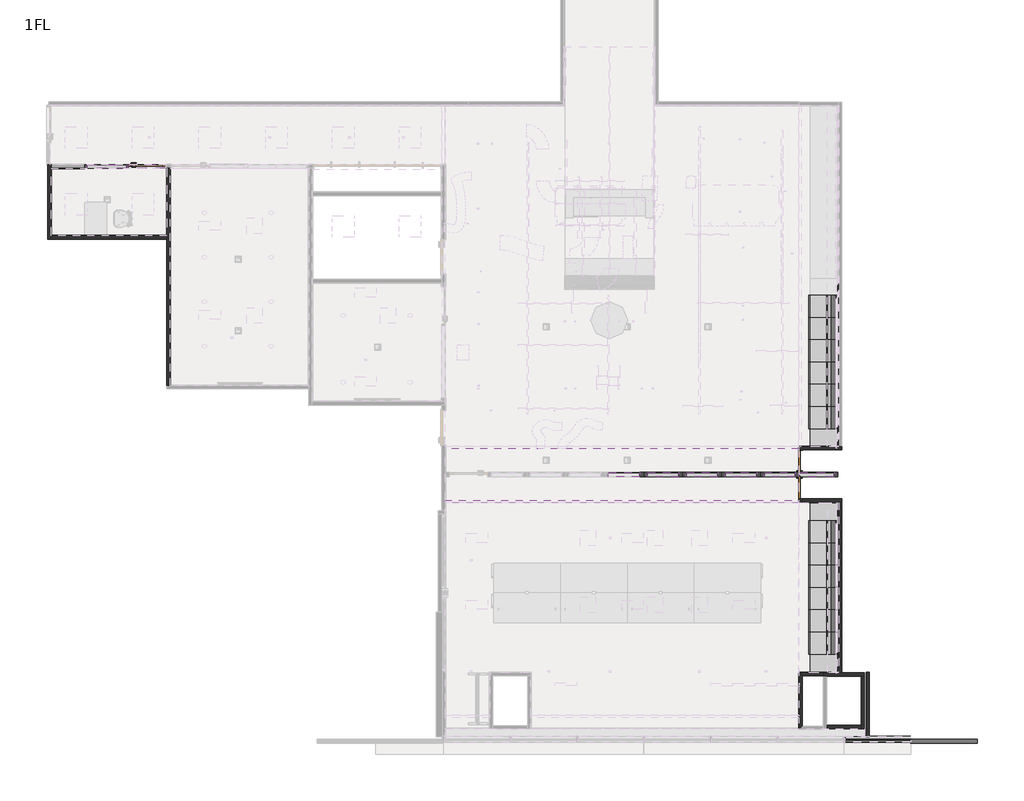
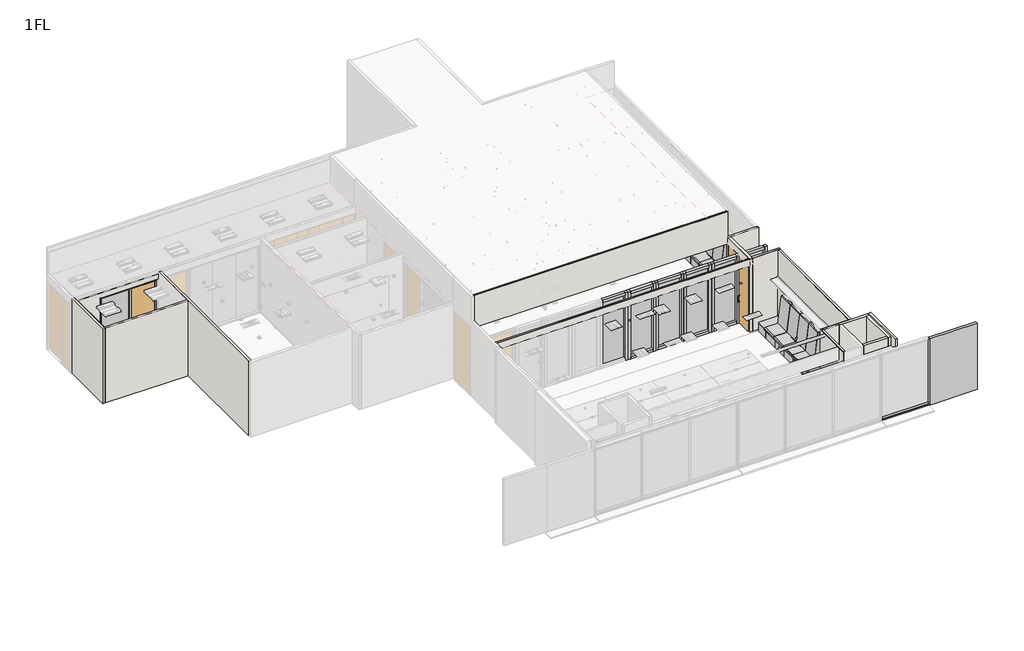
# One storey, part 2 of 13: 27 members, 26 walls, 23 plates, 2 doors.
"""IFC4 building model written with IfcOpenShell, lengths in millimetres."""

from ifc_helpers import new_model, si_unit, frame, origin, place, context, project, spatial, polyline, outline, extrude, faceted_brep, transform, mapped, element, save
from components import steel_single_door_gpd_1_74bd187e, wd_4_1305x2700_2a4c9971, down_4757ce99, frame_100x1003_5722a33e, frame_100x1003_1326d172, frame_100x1003_340101ea, frame_100x1003_4de115ea, frame_100x1003_02b6ec4a, frame_50x100_53001aca, frame_50x100_849c561a, frame_50x100_6d6498be, frame_50x100_8322f18e, plate_999be328, interior_panel_glass_f77e83d4, interior_panel_glass_2ea66a61, interior_panel_glass_e7516142, interior_panel_glass_c4700e78, millwork_bench_millwork_bench_4b785c8e, millwork_bench_millwork_bench_7542b6f9, millwork_bench_millwork_bench_4cd5eb03, millwork_bench2_millwork_bench2_839899ad, millwork_bench2_millwork_bench2_22598439

model = new_model("IFC4")

# Units and contexts
model_context = context("Model", 3, world=origin())
ifc_project = project(units=[si_unit("LENGTHUNIT", "METRE", prefix="MILLI")], contexts=[model_context])

# Site, building, storey
site = spatial("IfcSite", under=ifc_project)
building = spatial("IfcBuilding", under=site)
storey = spatial("IfcBuildingStorey", under=building, Name="1FL", Elevation=500.0)

# Doors
placement = place(None, origin())
steel_single_door_gpd_1_shape = steel_single_door_gpd_1_74bd187e(model_context)
element("IfcDoor", 1, ObjectType="Steel-Single-Door : GPD-1", at=placement, inside=storey, context=model_context, shape_type="MappedRepresentation", body=[
    mapped(steel_single_door_gpd_1_shape, transform((3536.8703689, 3423.4351177, 500.0), x_axis=(-1.0, 0.0, 0.0), y_axis=(0.0, -1.0, 0.0), z_axis=(0.0, 0.0, 1.0))),
])
wd_4_1305x2700_shape = wd_4_1305x2700_2a4c9971(model_context)
element("IfcDoor", 2, ObjectType="Steel_Doule-Door : WD-4_1305x2700", at=placement, inside=storey, context=model_context, shape_type="MappedRepresentation", body=[
    mapped(wd_4_1305x2700_shape, transform((21132.3192788, -4881.2937075, 500.0), x_axis=(0.0, 1.0, 0.0), y_axis=(-1.0, 0.0, 0.0), z_axis=(0.0, 0.0, 1.0))),
])

# Members
down_shape = down_4757ce99(model_context)
element("IfcMember", 3, ObjectType="長方形マリオン : Down", at=placement, inside=storey, context=model_context, shape_type="MappedRepresentation", body=[
    mapped(down_shape, transform((24143.0692785, -12076.8108554, 540.0), x_axis=(0.0, 0.0, -1.0), y_axis=(0.0, 1.0, 0.0), z_axis=(1.0, 0.0, 0.0))),
])
frame_100x1003_shape = frame_100x1003_5722a33e(model_context)
element("IfcMember", 4, ObjectType="長方形マリオン : frame-100x1003", at=placement, inside=storey, context=model_context, shape_type="MappedRepresentation", body=[
    mapped(frame_100x1003_shape, transform((16888.5892788, -4881.2937075, 500.0), x_axis=(1.0, 0.0, 0.0), y_axis=(0.0, -1.0, 0.0), z_axis=(0.0, 0.0, -1.0))),
])
element("IfcMember", 5, ObjectType="長方形マリオン : frame-100x1003", at=placement, inside=storey, context=model_context, shape_type="MappedRepresentation", body=[
    mapped(frame_100x1003_shape, transform((17938.5892788, -4881.2937075, 500.0), x_axis=(1.0, 0.0, 0.0), y_axis=(0.0, -1.0, 0.0), z_axis=(0.0, 0.0, -1.0))),
])
element("IfcMember", 6, ObjectType="長方形マリオン : frame-100x1003", at=placement, inside=storey, context=model_context, shape_type="MappedRepresentation", body=[
    mapped(frame_100x1003_shape, transform((18988.5892788, -4881.2937075, 500.0), x_axis=(1.0, 0.0, 0.0), y_axis=(0.0, -1.0, 0.0), z_axis=(0.0, 0.0, -1.0))),
])
element("IfcMember", 7, ObjectType="長方形マリオン : frame-100x1003", at=placement, inside=storey, context=model_context, shape_type="MappedRepresentation", body=[
    mapped(frame_100x1003_shape, transform((20038.5892788, -4881.2937075, 500.0), x_axis=(1.0, 0.0, 0.0), y_axis=(0.0, -1.0, 0.0), z_axis=(0.0, 0.0, -1.0))),
])
element("IfcMember", 8, ObjectType="長方形マリオン : frame-100x1003", at=placement, inside=storey, context=model_context, shape_type="MappedRepresentation", body=[
    mapped(frame_100x1003_shape, transform((21078.5892788, -4881.2937075, 500.0), x_axis=(1.0, 0.0, 0.0), y_axis=(0.0, -1.0, 0.0), z_axis=(0.0, 0.0, -1.0))),
])
element("IfcMember", 9, ObjectType="長方形マリオン : frame-100x1003", at=placement, inside=storey, context=model_context, shape_type="MappedRepresentation", body=[
    mapped(frame_100x1003_shape, transform((16988.5892788, -4881.2937075, 500.0), x_axis=(1.0, 0.0, 0.0), y_axis=(0.0, -1.0, 0.0), z_axis=(0.0, 0.0, -1.0))),
])
element("IfcMember", 10, ObjectType="長方形マリオン : frame-100x1003", at=placement, inside=storey, context=model_context, shape_type="MappedRepresentation", body=[
    mapped(frame_100x1003_shape, transform((18038.5892788, -4881.2937075, 500.0), x_axis=(1.0, 0.0, 0.0), y_axis=(0.0, -1.0, 0.0), z_axis=(0.0, 0.0, -1.0))),
])
element("IfcMember", 11, ObjectType="長方形マリオン : frame-100x1003", at=placement, inside=storey, context=model_context, shape_type="MappedRepresentation", body=[
    mapped(frame_100x1003_shape, transform((19088.5892788, -4881.2937075, 500.0), x_axis=(1.0, 0.0, 0.0), y_axis=(0.0, -1.0, 0.0), z_axis=(0.0, 0.0, -1.0))),
])
element("IfcMember", 12, ObjectType="長方形マリオン : frame-100x1003", at=placement, inside=storey, context=model_context, shape_type="MappedRepresentation", body=[
    mapped(frame_100x1003_shape, transform((20138.5892788, -4881.2937075, 500.0), x_axis=(1.0, 0.0, 0.0), y_axis=(0.0, -1.0, 0.0), z_axis=(0.0, 0.0, -1.0))),
])
frame_100x1003_2_shape = frame_100x1003_1326d172(model_context)
element("IfcMember", 13, ObjectType="長方形マリオン : frame-100x1003", at=placement, inside=storey, context=model_context, shape_type="MappedRepresentation", body=[
    mapped(frame_100x1003_2_shape, transform((16838.5892788, -4881.2937075, 3200.0), x_axis=(0.0, 0.0, 1.0), y_axis=(0.0, -1.0, 0.0), z_axis=(1.0, 0.0, 0.0))),
])
element("IfcMember", 14, ObjectType="長方形マリオン : frame-100x1003", at=placement, inside=storey, context=model_context, shape_type="MappedRepresentation", body=[
    mapped(frame_100x1003_2_shape, transform((17888.5892788, -4881.2937075, 3200.0), x_axis=(0.0, 0.0, 1.0), y_axis=(0.0, -1.0, 0.0), z_axis=(1.0, 0.0, 0.0))),
])
element("IfcMember", 15, ObjectType="長方形マリオン : frame-100x1003", at=placement, inside=storey, context=model_context, shape_type="MappedRepresentation", body=[
    mapped(frame_100x1003_2_shape, transform((18938.5892788, -4881.2937075, 3200.0), x_axis=(0.0, 0.0, 1.0), y_axis=(0.0, -1.0, 0.0), z_axis=(1.0, 0.0, 0.0))),
])
element("IfcMember", 16, ObjectType="長方形マリオン : frame-100x1003", at=placement, inside=storey, context=model_context, shape_type="MappedRepresentation", body=[
    mapped(frame_100x1003_2_shape, transform((19988.5892788, -4881.2937075, 3200.0), x_axis=(0.0, 0.0, 1.0), y_axis=(0.0, -1.0, 0.0), z_axis=(1.0, 0.0, 0.0))),
])
element("IfcMember", 17, ObjectType="長方形マリオン : frame-100x1003", at=placement, inside=storey, context=model_context, shape_type="MappedRepresentation", body=[
    mapped(frame_100x1003_2_shape, transform((17038.5892788, -4881.2937075, 500.0), x_axis=(0.0, 0.0, -1.0), y_axis=(0.0, -1.0, 0.0), z_axis=(-1.0, 0.0, 0.0))),
])
element("IfcMember", 18, ObjectType="長方形マリオン : frame-100x1003", at=placement, inside=storey, context=model_context, shape_type="MappedRepresentation", body=[
    mapped(frame_100x1003_2_shape, transform((18088.5892788, -4881.2937075, 500.0), x_axis=(0.0, 0.0, -1.0), y_axis=(0.0, -1.0, 0.0), z_axis=(-1.0, 0.0, 0.0))),
])
element("IfcMember", 19, ObjectType="長方形マリオン : frame-100x1003", at=placement, inside=storey, context=model_context, shape_type="MappedRepresentation", body=[
    mapped(frame_100x1003_2_shape, transform((19138.5892788, -4881.2937075, 500.0), x_axis=(0.0, 0.0, -1.0), y_axis=(0.0, -1.0, 0.0), z_axis=(-1.0, 0.0, 0.0))),
])
frame_100x1003_3_shape = frame_100x1003_340101ea(model_context)
element("IfcMember", 20, ObjectType="長方形マリオン : frame-100x1003", at=placement, inside=storey, context=model_context, shape_type="MappedRepresentation", body=[
    mapped(frame_100x1003_3_shape, transform((22180.569283, -4881.2937075, 500.0), x_axis=(1.0, 0.0, 0.0), y_axis=(0.0, -1.0, 0.0), z_axis=(0.0, 0.0, -1.0))),
])
frame_100x1003_4_shape = frame_100x1003_4de115ea(model_context)
element("IfcMember", 21, ObjectType="長方形マリオン : frame-100x1003", at=placement, inside=storey, context=model_context, shape_type="MappedRepresentation", body=[
    mapped(frame_100x1003_4_shape, transform((21028.5892788, -4881.2937075, 3200.0), x_axis=(0.0, 0.0, 1.0), y_axis=(0.0, -1.0, 0.0), z_axis=(1.0, 0.0, 0.0))),
])
frame_100x1003_5_shape = frame_100x1003_02b6ec4a(model_context)
element("IfcMember", 22, ObjectType="長方形マリオン : frame-100x1003", at=placement, inside=storey, context=model_context, shape_type="MappedRepresentation", body=[
    mapped(frame_100x1003_5_shape, transform((21128.5892788, -4881.2937075, 500.0), x_axis=(0.0, 0.0, -1.0), y_axis=(0.0, -1.0, 0.0), z_axis=(-1.0, 0.0, 0.0))),
])
element("IfcMember", 23, ObjectType="長方形マリオン : frame-100x1003", at=placement, inside=storey, context=model_context, shape_type="MappedRepresentation", body=[
    mapped(frame_100x1003_4_shape, transform((20188.5892788, -4881.2937075, 500.0), x_axis=(0.0, 0.0, -1.0), y_axis=(0.0, -1.0, 0.0), z_axis=(-1.0, 0.0, 0.0))),
])
element("IfcMember", 24, ObjectType="長方形マリオン : frame-100x1003", at=placement, inside=storey, context=model_context, shape_type="MappedRepresentation", body=[
    mapped(frame_100x1003_5_shape, transform((22080.569283, -4881.2937075, 3200.0), x_axis=(0.0, 0.0, 1.0), y_axis=(0.0, -1.0, 0.0), z_axis=(1.0, 0.0, 0.0))),
])
frame_50x100_shape = frame_50x100_53001aca(model_context)
element("IfcMember", 25, ObjectType="長方形マリオン : frame-50x100", at=placement, inside=storey, context=model_context, shape_type="MappedRepresentation", body=[
    mapped(frame_50x100_shape, transform((3024.3703689, 3423.4351177, 500.0), x_axis=(-1.0, 0.0, 0.0), y_axis=(0.0, 1.0, 0.0), z_axis=(0.0, 0.0, -1.0))),
])
frame_50x100_2_shape = frame_50x100_849c561a(model_context)
element("IfcMember", 26, ObjectType="長方形マリオン : frame-50x100", at=placement, inside=storey, context=model_context, shape_type="MappedRepresentation", body=[
    mapped(frame_50x100_2_shape, transform((1874.3703689, 3423.4351177, 500.0), x_axis=(-1.0, 0.0, 0.0), y_axis=(0.0, 1.0, 0.0), z_axis=(0.0, 0.0, -1.0))),
])
frame_50x100_3_shape = frame_50x100_6d6498be(model_context)
element("IfcMember", 27, ObjectType="長方形マリオン : frame-50x100", at=placement, inside=storey, context=model_context, shape_type="MappedRepresentation", body=[
    mapped(frame_50x100_3_shape, transform((3049.3703689, 3423.4351177, 3200.0), x_axis=(0.0, 0.0, 1.0), y_axis=(0.0, 1.0, 0.0), z_axis=(-1.0, 0.0, 0.0))),
])
frame_50x100_4_shape = frame_50x100_8322f18e(model_context)
element("IfcMember", 28, ObjectType="長方形マリオン : frame-50x100", at=placement, inside=storey, context=model_context, shape_type="MappedRepresentation", body=[
    mapped(frame_50x100_4_shape, transform((1924.3703689, 3423.4351177, 3200.0), x_axis=(0.0, 0.0, 1.0), y_axis=(0.0, 1.0, 0.0), z_axis=(-1.0, 0.0, 0.0))),
])
element("IfcMember", 29, ObjectType="長方形マリオン : frame-50x100", at=placement, inside=storey, context=model_context, shape_type="MappedRepresentation", body=[
    mapped(frame_50x100_4_shape, transform((2999.3703689, 3423.4351177, 500.0), x_axis=(0.0, 0.0, -1.0), y_axis=(0.0, 1.0, 0.0), z_axis=(1.0, 0.0, 0.0))),
])

# Plates
plate_shape = plate_999be328(model_context)
element("IfcPlate", 30, ObjectType="システム パネルなし : なし", at=placement, inside=storey, context=model_context, shape_type="MappedRepresentation", body=[
    mapped(plate_shape, transform((25043.0692787, -12076.8108554, 540.0), x_axis=(-1.0, 0.0, 0.0), y_axis=(0.0, -1.0, 0.0), z_axis=(0.0, 0.0, 1.0))),
])
interior_panel_glass_shape = interior_panel_glass_f77e83d4(model_context)
element("IfcPlate", 31, ObjectType="Interior-Panel : Glass", at=placement, inside=storey, context=model_context, shape_type="MappedRepresentation", body=[
    mapped(interior_panel_glass_shape, transform((2461.8703689, 3423.4351177, 550.0), x_axis=(-1.0, 0.0, 0.0), y_axis=(0.0, -1.0, 0.0), z_axis=(0.0, 0.0, 1.0))),
])
interior_panel_glass_2_shape = interior_panel_glass_2ea66a61(model_context)
element("IfcPlate", 32, ObjectType="Interior-Panel : Glass", at=placement, inside=storey, context=model_context, shape_type="MappedRepresentation", body=[
    mapped(interior_panel_glass_2_shape, transform((21604.5792809, -4881.2937075, 600.0), x_axis=(1.0, 0.0, 0.0), y_axis=(0.0, 1.0, 0.0), z_axis=(0.0, 0.0, 1.0))),
])
interior_panel_glass_3_shape = interior_panel_glass_e7516142(model_context)
element("IfcPlate", 33, ObjectType="Interior-Panel : Glass", at=placement, inside=storey, context=model_context, shape_type="MappedRepresentation", body=[
    mapped(interior_panel_glass_3_shape, transform((17463.5892788, -4881.2937075, 600.0), x_axis=(1.0, 0.0, 0.0), y_axis=(0.0, 1.0, 0.0), z_axis=(0.0, 0.0, 1.0))),
])
element("IfcPlate", 34, ObjectType="Interior-Panel : Glass", at=placement, inside=storey, context=model_context, shape_type="MappedRepresentation", body=[
    mapped(interior_panel_glass_3_shape, transform((18513.5892788, -4881.2937075, 600.0), x_axis=(1.0, 0.0, 0.0), y_axis=(0.0, 1.0, 0.0), z_axis=(0.0, 0.0, 1.0))),
])
element("IfcPlate", 35, ObjectType="Interior-Panel : Glass", at=placement, inside=storey, context=model_context, shape_type="MappedRepresentation", body=[
    mapped(interior_panel_glass_3_shape, transform((19563.5892788, -4881.2937075, 600.0), x_axis=(1.0, 0.0, 0.0), y_axis=(0.0, 1.0, 0.0), z_axis=(0.0, 0.0, 1.0))),
])
element("IfcPlate", 36, ObjectType="Interior-Panel : Glass", at=placement, inside=storey, context=model_context, shape_type="MappedRepresentation", body=[
    mapped(interior_panel_glass_3_shape, transform((16413.5892788, -4881.2937075, 600.0), x_axis=(1.0, 0.0, 0.0), y_axis=(0.0, 1.0, 0.0), z_axis=(0.0, 0.0, 1.0))),
])
interior_panel_glass_4_shape = interior_panel_glass_c4700e78(model_context)
element("IfcPlate", 37, ObjectType="Interior-Panel : Glass", at=placement, inside=storey, context=model_context, shape_type="MappedRepresentation", body=[
    mapped(interior_panel_glass_4_shape, transform((20608.5892788, -4881.2937075, 600.0), x_axis=(1.0, 0.0, 0.0), y_axis=(0.0, 1.0, 0.0), z_axis=(0.0, 0.0, 1.0))),
])
millwork_bench_millwork_bench_shape = millwork_bench_millwork_bench_4b785c8e(model_context)
element("IfcPlate", 38, ObjectType="Millwork Bench : Millwork Bench", at=placement, inside=storey, context=model_context, shape_type="MappedRepresentation", body=[
    mapped(millwork_bench_millwork_bench_shape, transform((22170.569283, -9431.5437704, 500.0), x_axis=(0.0, 1.0, 0.0), y_axis=(-1.0, 0.0, 0.0), z_axis=(0.0, 0.0, 1.0))),
])
element("IfcPlate", 39, ObjectType="Millwork Bench : Millwork Bench", at=placement, inside=storey, context=model_context, shape_type="MappedRepresentation", body=[
    mapped(millwork_bench_millwork_bench_shape, transform((22170.569283, -8831.5437704, 500.0), x_axis=(0.0, 1.0, 0.0), y_axis=(-1.0, 0.0, 0.0), z_axis=(0.0, 0.0, 1.0))),
])
element("IfcPlate", 40, ObjectType="Millwork Bench : Millwork Bench", at=placement, inside=storey, context=model_context, shape_type="MappedRepresentation", body=[
    mapped(millwork_bench_millwork_bench_shape, transform((22170.569283, -8231.5437704, 500.0), x_axis=(0.0, 1.0, 0.0), y_axis=(-1.0, 0.0, 0.0), z_axis=(0.0, 0.0, 1.0))),
])
element("IfcPlate", 41, ObjectType="Millwork Bench : Millwork Bench", at=placement, inside=storey, context=model_context, shape_type="MappedRepresentation", body=[
    mapped(millwork_bench_millwork_bench_shape, transform((22170.569283, -7631.5437704, 500.0), x_axis=(0.0, 1.0, 0.0), y_axis=(-1.0, 0.0, 0.0), z_axis=(0.0, 0.0, 1.0))),
])
element("IfcPlate", 42, ObjectType="Millwork Bench : Millwork Bench", at=placement, inside=storey, context=model_context, shape_type="MappedRepresentation", body=[
    mapped(millwork_bench_millwork_bench_shape, transform((22170.569283, -7031.5437704, 500.0), x_axis=(0.0, 1.0, 0.0), y_axis=(-1.0, 0.0, 0.0), z_axis=(0.0, 0.0, 1.0))),
])
element("IfcPlate", 43, ObjectType="Millwork Bench : Millwork Bench", at=placement, inside=storey, context=model_context, shape_type="MappedRepresentation", body=[
    mapped(millwork_bench_millwork_bench_shape, transform((22170.569283, -3354.2937711, 500.0), x_axis=(0.0, 1.0, 0.0), y_axis=(-1.0, 0.0, 0.0), z_axis=(0.0, 0.0, 1.0))),
])
millwork_bench_millwork_bench_2_shape = millwork_bench_millwork_bench_7542b6f9(model_context)
element("IfcPlate", 44, ObjectType="Millwork Bench : Millwork Bench", at=placement, inside=storey, context=model_context, shape_type="MappedRepresentation", body=[
    mapped(millwork_bench_millwork_bench_2_shape, transform((22170.569283, -6431.5437704, 500.0), x_axis=(0.0, 1.0, 0.0), y_axis=(-1.0, 0.0, 0.0), z_axis=(0.0, 0.0, 1.0))),
])
element("IfcPlate", 45, ObjectType="Millwork Bench : Millwork Bench", at=placement, inside=storey, context=model_context, shape_type="MappedRepresentation", body=[
    mapped(millwork_bench_millwork_bench_2_shape, transform((22170.569283, -354.2937711, 500.0), x_axis=(0.0, 1.0, 0.0), y_axis=(-1.0, 0.0, 0.0), z_axis=(0.0, 0.0, 1.0))),
])
millwork_bench_millwork_bench_3_shape = millwork_bench_millwork_bench_4cd5eb03(model_context)
element("IfcPlate", 46, ObjectType="Millwork Bench : Millwork Bench", at=placement, inside=storey, context=model_context, shape_type="MappedRepresentation", body=[
    mapped(millwork_bench_millwork_bench_3_shape, transform((22170.569283, -2754.2937711, 500.0), x_axis=(0.0, 1.0, 0.0), y_axis=(-1.0, 0.0, 0.0), z_axis=(0.0, 0.0, 1.0))),
])
element("IfcPlate", 47, ObjectType="Millwork Bench : Millwork Bench", at=placement, inside=storey, context=model_context, shape_type="MappedRepresentation", body=[
    mapped(millwork_bench_millwork_bench_3_shape, transform((22170.569283, -2154.2937711, 500.0), x_axis=(0.0, 1.0, 0.0), y_axis=(-1.0, 0.0, 0.0), z_axis=(0.0, 0.0, 1.0))),
])
element("IfcPlate", 48, ObjectType="Millwork Bench : Millwork Bench", at=placement, inside=storey, context=model_context, shape_type="MappedRepresentation", body=[
    mapped(millwork_bench_millwork_bench_3_shape, transform((22170.569283, -1554.2937711, 500.0), x_axis=(0.0, 1.0, 0.0), y_axis=(-1.0, 0.0, 0.0), z_axis=(0.0, 0.0, 1.0))),
])
element("IfcPlate", 49, ObjectType="Millwork Bench : Millwork Bench", at=placement, inside=storey, context=model_context, shape_type="MappedRepresentation", body=[
    mapped(millwork_bench_millwork_bench_3_shape, transform((22170.569283, -954.2937711, 500.0), x_axis=(0.0, 1.0, 0.0), y_axis=(-1.0, 0.0, 0.0), z_axis=(0.0, 0.0, 1.0))),
])
millwork_bench2_millwork_bench2_shape = millwork_bench2_millwork_bench2_839899ad(model_context)
element("IfcPlate", 50, ObjectType="Millwork Bench2 : Millwork Bench2", at=placement, inside=storey, context=model_context, shape_type="MappedRepresentation", body=[
    mapped(millwork_bench2_millwork_bench2_shape, transform((22170.569283, -3887.2867371, 500.0), x_axis=(0.0, 1.0, 0.0), y_axis=(-1.0, 0.0, 0.0), z_axis=(0.0, 0.0, 1.0))),
])
millwork_bench2_millwork_bench2_2_shape = millwork_bench2_millwork_bench2_22598439(model_context)
element("IfcPlate", 51, ObjectType="Millwork Bench2 : Millwork Bench2", at=placement, inside=storey, context=model_context, shape_type="MappedRepresentation", body=[
    mapped(millwork_bench2_millwork_bench2_2_shape, transform((22170.569283, -9976.1758048, 500.0), x_axis=(0.0, 1.0, 0.0), y_axis=(-1.0, 0.0, 0.0), z_axis=(0.0, 0.0, 1.0))),
])
element("IfcPlate", 52, ObjectType="Millwork Bench2 : Millwork Bench2", at=placement, inside=storey, context=model_context, shape_type="MappedRepresentation", body=[
    mapped(millwork_bench2_millwork_bench2_2_shape, transform((22170.569283, -5886.9117361, 500.0), x_axis=(0.0, 1.0, 0.0), y_axis=(-1.0, 0.0, 0.0), z_axis=(0.0, 0.0, 1.0))),
])

# Walls
element("IfcWall", 53, ObjectType="CF-5", at=placement, inside=storey, context=model_context, shape_type="SolidModel", body=[
    faceted_brep([(11576.5692788, -5575.2797018, 3205.0), (11576.5692788, -5575.2797018, 3465.0), (21127.5692788, -5575.2797018, 3465.0), (21127.5692788, -5575.2797018, 3221.0), (21127.5692788, -5575.2797018, 3205.0), (21127.5692788, -5625.2797018, 3205.0), (11576.5692788, -5625.2797018, 3205.0), (21127.5692788, -5625.2797018, 3465.0), (11576.5692788, -5625.2797018, 3465.0)], [[[0, 1, 2, 3, 4]], [[5, 6, 0, 4]], [[6, 5, 7, 8]], [[2, 1, 8, 7]], [[3, 2, 7, 5, 4]], [[0, 6, 8, 1]]]),
    faceted_brep([(11589.0692788, -5637.2797018, 3465.0), (11589.0692788, -5625.2797018, 3465.0), (11589.0692788, -5625.2797018, 3205.0), (11589.0692788, -5637.2797018, 3205.0), (21127.5692788, -5625.2797018, 3205.0), (21127.5692788, -5625.2797018, 3465.0), (21127.5692788, -5637.2797018, 3205.0), (21127.5692788, -5637.2797018, 3465.0), (21127.5692788, -5632.7797031, 3465.0)], [[[0, 1, 2, 3]], [[4, 2, 1, 5]], [[6, 3, 2, 4]], [[3, 6, 7, 0]], [[7, 8, 5, 1, 0]], [[8, 7, 6, 4, 5]]]),
    extrude(outline(polyline([(11589.0692788, -5637.2797018), (21127.5692788, -5637.2797018), (21127.5692788, -5642.2797018), (11589.0692788, -5642.2797018), (11589.0692788, -5637.2797018)])), frame((0.0, 0.0, 3200.0), z_axis=(0.0, 0.0, 1.0), x_axis=(1.0, 0.0, 0.0)), (0.0, 0.0, 1.0), 265.0),
])
element("IfcWall", 54, ObjectType="CF-5", at=placement, inside=storey, context=model_context, shape_type="SolidModel", body=[
    faceted_brep([(21127.5692788, -4187.3077133, 3205.0), (11576.5692788, -4187.3077133, 3205.0), (11576.5692788, -4137.3077133, 3205.0), (21127.5692788, -4137.3077133, 3205.0), (21127.5692788, -4187.3077133, 3221.0), (21127.5692788, -4137.3077133, 4470.0), (21127.5692788, -4187.3077133, 4470.0), (11576.5692788, -4187.3077133, 4470.0), (11576.5692788, -4137.3077133, 4470.0)], [[[0, 1, 2, 3]], [[4, 0, 3, 5, 6]], [[7, 6, 5, 8]], [[3, 2, 8, 5]], [[7, 1, 0, 4, 6]], [[7, 8, 2, 1]]]),
    faceted_brep([(11589.0692788, -4137.3077133, 3205.0), (21127.5692788, -4137.3077133, 3205.0), (21127.5692788, -4137.3077133, 4470.0), (11589.0692788, -4137.3077133, 4470.0), (11589.0692788, -4125.3048863, 3205.0), (21127.5692788, -4125.3077133, 3205.0), (21127.5692788, -4125.3077133, 4470.0), (11589.0692788, -4125.3077133, 4470.0)], [[[0, 1, 2, 3]], [[0, 4, 5, 1]], [[1, 5, 6, 2]], [[2, 6, 7, 3]], [[4, 0, 3, 7]], [[5, 4, 7, 6]]]),
    extrude(outline(polyline([(11589.0692788, -4120.3077133), (21127.5692788, -4120.3077133), (21127.5692788, -4125.3077133), (11589.0692788, -4125.3077133), (11589.0692788, -4120.3077133)])), frame((0.0, 0.0, 3200.0), z_axis=(0.0, 0.0, 1.0), x_axis=(1.0, 0.0, 0.0)), (0.0, 0.0, 1.0), 1270.0),
])
element("IfcWall", 55, ObjectType="W-1", at=placement, inside=storey, context=model_context, shape_type="Brep", body=[
    faceted_brep([(4175.8903689, -2484.9426633, 500.0), (4175.8903689, 3371.9345805, 500.0), (4175.8903689, 3371.9345805, 3465.0), (4175.8903689, -2484.9426633, 3465.0), (4083.8903689, -2484.9426633, 500.0), (4083.8903689, -2484.9426633, 3465.0), (4083.8903689, 1460.9345805, 3465.0), (4083.8903689, 1552.9345805, 3465.0), (4083.8903689, 1562.4345805, 3465.0), (4083.8903689, 3371.9345805, 3465.0), (4083.8903689, 3371.9345805, 500.0), (4083.8903689, 1562.4345805, 500.0), (4083.8903689, 1552.9345805, 500.0), (4083.8903689, 1460.9345805, 500.0)], [[[0, 1, 2, 3]], [[4, 5, 6, 7, 8, 9, 10, 11, 12, 13]], [[1, 0, 4, 13, 12, 11, 10]], [[3, 2, 9, 8, 7, 6, 5]], [[2, 1, 10, 9]], [[0, 3, 5, 4]]]),
])
element("IfcWall", 56, ObjectType="W-1", at=placement, inside=storey, context=model_context, shape_type="SweptSolid", body=[
    extrude(outline(polyline([(963.6488246, 1552.9345805), (4083.8903689, 1552.9345805), (4083.8903689, 1460.9345805), (963.6488246, 1460.9345805), (963.6488246, 1552.9345805)])), frame((0.0, 0.0, 500.0), z_axis=(0.0, 0.0, 1.0), x_axis=(1.0, 0.0, 0.0)), (0.0, 0.0, 1.0), 2965.0),
])
element("IfcWall", 57, ObjectType="W-1", at=placement, inside=storey, context=model_context, shape_type="Brep", body=[
    faceted_brep([(21790.0692872, -10322.3078391, 500.0), (21882.0692872, -10322.3078391, 500.0), (22804.0692791, -10322.3078391, 500.0), (22896.0692791, -10322.3078391, 500.0), (22896.0692791, -10322.3078391, 3457.0), (22804.0692791, -10322.3078391, 3457.0), (21882.0692872, -10322.3078391, 3457.0), (21790.0692872, -10322.3078391, 3457.0), (21790.0692872, -10230.3078391, 500.0), (21790.0692872, -10230.3078391, 3457.0), (22200.069283, -10230.3078391, 3457.0), (22279.569283, -10230.3078391, 3457.0), (22896.0692791, -10230.3078391, 3457.0), (22896.0692791, -10230.3078391, 500.0), (22279.569283, -10230.3078391, 500.0), (22200.069283, -10230.3078391, 500.0), (22190.569283, -10230.3078391, 500.0), (22170.569283, -10230.3078391, 500.0)], [[[0, 1, 2, 3, 4, 5, 6, 7]], [[8, 9, 10, 11, 12, 13, 14, 15, 16, 17]], [[3, 2, 1, 0, 8, 17, 16, 15, 14, 13]], [[7, 6, 5, 4, 12, 11, 10, 9]], [[4, 3, 13, 12]], [[0, 7, 9, 8]]]),
])
element("IfcWall", 58, ObjectType="W-1", at=placement, inside=storey, context=model_context, shape_type="Brep", body=[
    faceted_brep([(22804.0692791, -10322.3078391, 500.0), (22804.0692791, -11649.3073642, 500.0), (22804.0692791, -11741.3073642, 500.0), (22804.0692791, -11741.3073642, 3457.0), (22804.0692791, -11649.3073642, 3457.0), (22804.0692791, -10322.3078391, 3457.0), (22896.0692791, -10322.3078391, 500.0), (22896.0692791, -10322.3078391, 3457.0), (22896.0692791, -11741.3073642, 3457.0), (22896.0692791, -11741.3073642, 500.0)], [[[0, 1, 2, 3, 4, 5]], [[6, 7, 8, 9]], [[2, 1, 0, 6, 9]], [[5, 4, 3, 8, 7]], [[0, 5, 7, 6]], [[3, 2, 9, 8]]]),
])
element("IfcWall", 59, ObjectType="W-1", at=placement, inside=storey, context=model_context, shape_type="SweptSolid", body=[
    extrude(outline(polyline([(21882.0692872, -11649.3073642), (22804.0692791, -11649.3073642), (22804.0692791, -11741.3073642), (21882.0692872, -11741.3073642), (21882.0692872, -11649.3073642)])), frame((0.0, 0.0, 500.0), z_axis=(0.0, 0.0, 1.0), x_axis=(1.0, 0.0, 0.0)), (0.0, 0.0, 1.0), 2957.0),
])
element("IfcWall", 60, ObjectType="W-3", at=placement, inside=storey, context=model_context, shape_type="SweptSolid", body=[
    extrude(outline(polyline([(21216.5692788, -10309.8078391), (21216.5692788, -11671.3073642), (21137.0692788, -11750.8073642), (21137.0692788, -10230.3078391), (21216.5692788, -10309.8078391)])), frame((0.0, 0.0, 500.0), z_axis=(0.0, 0.0, 1.0), x_axis=(1.0, 0.0, 0.0)), (0.0, 0.0, 1.0), 2957.0),
])
element("IfcWall", 61, ObjectType="W-3", at=placement, inside=storey, context=model_context, shape_type="SweptSolid", body=[
    extrude(outline(polyline([(21780.5692788, -10309.8078391), (21216.5692788, -10309.8078391), (21137.0692788, -10230.3078391), (21780.5692788, -10230.3078391), (21780.5692788, -10309.8078391)])), frame((0.0, 0.0, 500.0), z_axis=(0.0, 0.0, 1.0), x_axis=(1.0, 0.0, 0.0)), (0.0, 0.0, 1.0), 2957.0),
])
element("IfcWall", 62, ObjectType="W-3", at=placement, inside=storey, context=model_context, shape_type="SweptSolid", body=[
    extrude(outline(polyline([(22279.569283, -5632.7797018), (22279.569283, -10230.3078391), (22200.069283, -10230.3078391), (22200.069283, -5632.7797018), (22279.569283, -5632.7797018)])), frame((0.0, 0.0, 500.0), z_axis=(0.0, 0.0, 1.0), x_axis=(1.0, 0.0, 0.0)), (0.0, 0.0, 1.0), 2957.0),
])
element("IfcWall", 63, ObjectType="W-3", at=placement, inside=storey, context=model_context, shape_type="SweptSolid", body=[
    extrude(outline(polyline([(23025.8192791, -10220.8078391), (23025.8192791, -11953.3067556), (22946.3192791, -11953.3067556), (22946.3192791, -10220.8078391), (23025.8192791, -10220.8078391)])), frame((0.0, 0.0, 500.0), z_axis=(0.0, 0.0, 1.0), x_axis=(1.0, 0.0, 0.0)), (0.0, 0.0, 1.0), 2965.0),
])
element("IfcWall", 64, ObjectType="W-5", at=placement, inside=storey, context=model_context, shape_type="Brep", body=[
    faceted_brep([(21229.0692788, -5632.7797018, 500.0), (22170.569283, -5632.7797018, 500.0), (22190.569283, -5632.7797018, 500.0), (22200.069283, -5632.7797018, 500.0), (22279.569283, -5632.7797018, 500.0), (22279.569283, -5632.7797018, 3457.0), (22279.569283, -5632.7797018, 3465.0), (21229.0692788, -5632.7797018, 3465.0), (21229.0692788, -5540.7797018, 500.0), (21229.0692788, -5540.7797018, 3465.0), (22279.569283, -5540.7797018, 3465.0), (22279.569283, -5540.7797018, 500.0)], [[[0, 1, 2, 3, 4, 5, 6, 7]], [[8, 9, 10, 11]], [[4, 3, 2, 1, 0, 8, 11]], [[7, 6, 10, 9]], [[6, 5, 4, 11, 10]], [[0, 7, 9, 8]]]),
])
element("IfcWall", 65, ObjectType="W-5", at=placement, inside=storey, context=model_context, shape_type="Brep", body=[
    faceted_brep([(21137.0692788, -4221.7797031, 500.0), (21229.0692788, -4221.7797031, 500.0), (22279.569283, -4221.7797031, 500.0), (22279.569283, -4221.7797031, 3465.0), (21229.0692788, -4221.7797031, 3465.0), (21137.0692788, -4221.7797031, 3465.0), (21137.0692788, -4129.7797031, 500.0), (21137.0692788, -4129.7797031, 3465.0), (22279.569283, -4129.7797031, 3465.0), (22279.569283, -4129.7797031, 500.0), (22200.069283, -4129.7797031, 500.0)], [[[0, 1, 2, 3, 4, 5]], [[6, 7, 8, 9, 10]], [[2, 1, 0, 6, 10, 9]], [[5, 4, 3, 8, 7]], [[0, 5, 7, 6]], [[3, 2, 9, 8]]]),
])
element("IfcWall", 66, ObjectType="W-5", at=placement, inside=storey, context=model_context, shape_type="Brep", body=[
    faceted_brep([(21229.0692788, -5632.7797018, 3465.0), (21229.0692788, -5632.7797018, 500.0), (21229.0692788, -5540.7797018, 500.0), (21229.0692788, -5533.7937075, 500.0), (21229.0692788, -5533.7937075, 3200.0), (21229.0692788, -4228.7937075, 3200.0), (21229.0692788, -4228.7937075, 500.0), (21229.0692788, -4221.7797031, 500.0), (21229.0692788, -4221.7797031, 3465.0), (21229.0692788, -5540.7797018, 3465.0), (21137.0692788, -5632.7797018, 500.0), (21137.0692788, -5632.7797018, 3465.0), (21137.0692788, -4221.7797031, 3465.0), (21137.0692788, -4221.7797031, 500.0), (21137.0692788, -4228.7937075, 500.0), (21137.0692788, -4228.7937075, 3200.0), (21137.0692788, -5533.7937075, 3200.0), (21137.0692788, -5533.7937075, 500.0)], [[[0, 1, 2, 3, 4, 5, 6, 7, 8, 9]], [[10, 11, 12, 13, 14, 15, 16, 17]], [[1, 10, 17, 3, 2]], [[6, 14, 13, 7]], [[11, 0, 9, 8, 12]], [[1, 0, 11, 10]], [[8, 7, 13, 12]], [[6, 5, 15, 14]], [[4, 3, 17, 16]], [[5, 4, 16, 15]]]),
])
element("IfcWall", 67, ObjectType="W-6", at=placement, inside=storey, context=model_context, shape_type="Brep", body=[
    faceted_brep([(871.6488246, 3463.9345805, 500.0), (871.6488246, 1460.9345805, 500.0), (871.6488246, 1460.9345805, 3465.0), (871.6488246, 3463.9345805, 3465.0), (963.6488246, 3463.9345805, 500.0), (963.6488246, 3463.9345805, 3465.0), (963.6488246, 3371.9345805, 3465.0), (963.6488246, 1552.9345805, 3465.0), (963.6488246, 1460.9345805, 3465.0), (963.6488246, 1460.9345805, 500.0), (963.6488246, 1552.9345805, 500.0), (963.6488246, 3371.9345805, 500.0), (943.1488246, 3463.9345805, 500.0), (943.1488246, 3463.9345805, 3465.0)], [[[0, 1, 2, 3]], [[4, 5, 6, 7, 8, 9, 10, 11]], [[1, 0, 12, 4, 11, 10, 9]], [[3, 2, 8, 7, 6, 5, 13]], [[0, 3, 13, 5, 4, 12]], [[2, 1, 9, 8]]]),
])
element("IfcWall", 68, ObjectType="WF-1", at=placement, inside=storey, context=model_context, shape_type="Brep", body=[
    faceted_brep([(21137.0692788, -11750.8073642, 500.0), (21137.0692788, -10230.3078391, 500.0), (21137.0692788, -10220.8078391, 500.0), (21137.0692788, -10220.8078391, 3457.0), (21137.0692788, -10230.3078391, 3457.0), (21137.0692788, -11750.8073642, 3457.0), (21127.5692788, -11750.8073642, 500.0), (21127.5692788, -11750.8073642, 3457.0), (21127.5692788, -10220.8078391, 3457.0), (21127.5692788, -10220.8078391, 500.0)], [[[0, 1, 2, 3, 4, 5]], [[6, 7, 8, 9]], [[2, 1, 0, 6, 9]], [[5, 4, 3, 8, 7]], [[0, 5, 7, 6]], [[3, 2, 9, 8]]]),
])
element("IfcWall", 69, ObjectType="WF-1", at=placement, inside=storey, context=model_context, shape_type="Brep", body=[
    faceted_brep([(21137.0692788, -5632.7797031, 500.0), (21137.0692788, -5533.7937075, 500.0), (21137.0692788, -5533.7937075, 3200.0), (21137.0692788, -4228.7937075, 3200.0), (21137.0692788, -4228.7937075, 500.0), (21137.0692788, -4221.7797031, 500.0), (21137.0692788, -4129.7797031, 500.0), (21137.0692788, -4120.3077133, 500.0), (21137.0692788, -4120.3077133, 3400.0), (21137.0692788, -4120.3077133, 3465.0), (21137.0692788, -4221.7797031, 3465.0), (21137.0692788, -5632.7797031, 3465.0), (21127.5692788, -5533.7937075, 3200.0), (21127.5692788, -5533.7937075, 500.0), (21127.5692788, -5632.7797031, 500.0), (21127.5692788, -5632.7797031, 3465.0), (21127.5692788, -5575.2797018, 3465.0), (21127.5692788, -4120.3077133, 3465.0), (21127.5692788, -4120.3077133, 500.0), (21127.5692788, -4228.7937075, 500.0), (21127.5692788, -4228.7937075, 3200.0)], [[[0, 1, 2, 3, 4, 5, 6, 7, 8, 9, 10, 11]], [[12, 13, 14, 15, 16, 17, 18, 19, 20]], [[19, 18, 7, 6, 5, 4]], [[14, 13, 1, 0]], [[9, 8, 7, 18, 17]], [[11, 10, 9, 17, 16, 15]], [[11, 15, 14, 0]], [[4, 3, 20, 19]], [[2, 1, 13, 12]], [[3, 2, 12, 20]]]),
])
element("IfcWall", 70, ObjectType="WF-2", at=placement, inside=storey, context=model_context, shape_type="Brep", body=[
    faceted_brep([(21137.0692788, -10230.3078391, 500.0), (22200.069283, -10230.3078391, 500.0), (22200.069283, -10230.3078391, 3457.0), (21137.0692788, -10230.3078391, 3457.0), (21137.0692788, -10220.8078391, 500.0), (21137.0692788, -10220.8078391, 3457.0), (22200.069283, -10220.8078391, 3457.0), (22200.069283, -10220.8078391, 500.0), (22190.569283, -10220.8078391, 500.0)], [[[0, 1, 2, 3]], [[4, 5, 6, 7, 8]], [[1, 0, 4, 8, 7]], [[3, 2, 6, 5]], [[0, 3, 5, 4]], [[2, 1, 7, 6]]]),
])
element("IfcWall", 71, ObjectType="WF-2", at=placement, inside=storey, context=model_context, shape_type="Brep", body=[
    faceted_brep([(22200.069283, -10220.8078391, 500.0), (22200.069283, -5632.7797031, 500.0), (22200.069283, -5632.7797031, 3465.0), (22200.069283, -10220.8078391, 3465.0), (22200.069283, -10220.8078391, 3457.0), (22190.569283, -10220.8078391, 500.0), (22190.569283, -10220.8078391, 3465.0), (22190.569283, -5642.2797031, 3465.0), (22190.569283, -5632.7797031, 3465.0), (22190.569283, -5632.7797031, 500.0), (22190.569283, -5642.2797031, 500.0)], [[[0, 1, 2, 3, 4]], [[5, 6, 7, 8, 9, 10]], [[1, 0, 5, 10, 9]], [[3, 2, 8, 7, 6]], [[0, 4, 3, 6, 5]], [[2, 1, 9, 8]]]),
])
element("IfcWall", 72, ObjectType="WF-2", at=placement, inside=storey, context=model_context, shape_type="Brep", body=[
    faceted_brep([(22190.569283, -5632.7797031, 500.0), (21137.0692788, -5632.7797031, 500.0), (21127.5692788, -5632.7797031, 500.0), (21127.5692788, -5632.7797031, 3465.0), (21137.0692788, -5632.7797031, 3465.0), (22190.569283, -5632.7797031, 3465.0), (22190.569283, -5642.2797031, 500.0), (22190.569283, -5642.2797031, 3465.0), (21127.5692788, -5642.2797031, 3465.0), (21127.5692788, -5642.2797031, 3205.0), (21127.5692788, -5642.2797031, 500.0)], [[[0, 1, 2, 3, 4, 5]], [[6, 7, 8, 9, 10]], [[2, 1, 0, 6, 10]], [[5, 4, 3, 8, 7]], [[0, 5, 7, 6]], [[2, 10, 9, 8, 3]]]),
])
element("IfcWall", 73, ObjectType="WF-2", at=placement, inside=storey, context=model_context, shape_type="Brep", body=[
    faceted_brep([(21137.0692788, -4129.7797031, 500.0), (22200.069283, -4129.7797031, 500.0), (22200.069283, -4129.7797031, 3400.0), (21137.0692788, -4129.7797031, 3400.0), (21137.0692788, -4120.2797031, 500.0), (21137.0692788, -4120.2797031, 3400.0), (22190.569283, -4120.2797031, 3400.0), (22200.069283, -4120.2797031, 3400.0), (22200.069283, -4120.2797031, 500.0), (22190.569283, -4120.2797031, 500.0), (22170.569283, -4120.2797031, 500.0)], [[[0, 1, 2, 3]], [[4, 5, 6, 7, 8, 9, 10]], [[1, 0, 4, 10, 9, 8]], [[3, 2, 7, 6, 5]], [[2, 1, 8, 7]], [[0, 3, 5, 4]]]),
])
element("IfcWall", 74, ObjectType="WF-3", at=placement, inside=storey, context=model_context, shape_type="Brep", body=[
    faceted_brep([(963.6488246, 3371.9345805, 500.0), (963.6488246, 1552.9345805, 500.0), (963.6488246, 1552.9345805, 3465.0), (963.6488246, 3371.9345805, 3465.0), (973.1488246, 3371.9345805, 500.0), (973.1488246, 3371.9345805, 3400.0), (973.1488246, 3371.9345805, 3465.0), (973.1488246, 1552.9345805, 3465.0), (973.1488246, 1552.9345805, 3400.0), (973.1488246, 1552.9345805, 500.0), (973.1488246, 1562.4345805, 500.0), (973.1488246, 3362.4345805, 500.0)], [[[0, 1, 2, 3]], [[4, 5, 6, 7, 8, 9, 10, 11]], [[1, 0, 4, 11, 10, 9]], [[3, 2, 7, 6]], [[2, 1, 9, 8, 7]], [[0, 3, 6, 5, 4]]]),
])
element("IfcWall", 75, ObjectType="WF-3", at=placement, inside=storey, context=model_context, shape_type="SweptSolid", body=[
    extrude(outline(polyline([(3400.0, 4074.3903689), (3400.0, 973.1488246), (500.0, 973.1488246), (500.0, 1874.3703689), (3200.0, 1874.3703689), (3200.0, 4074.3903689), (3400.0, 4074.3903689)])), frame((0.0, 3362.4345805, 0.0), z_axis=(0.0, 1.0, 0.0), x_axis=(0.0, 0.0, 1.0)), (0.0, 0.0, 1.0), 9.5),
])
element("IfcWall", 76, ObjectType="WF-8", at=placement, inside=storey, context=model_context, shape_type="Brep", body=[
    faceted_brep([(973.1488246, 1552.9345805, 500.0), (4083.8903689, 1552.9345805, 500.0), (4083.8903689, 1552.9345805, 3400.0), (973.1488246, 1552.9345805, 3400.0), (973.1488246, 1562.4345805, 500.0), (973.1488246, 1562.4345805, 3400.0), (4083.8903689, 1562.4345805, 3400.0), (4083.8903689, 1562.4345805, 500.0), (4074.3903689, 1562.4345805, 500.0)], [[[0, 1, 2, 3]], [[4, 5, 6, 7, 8]], [[1, 0, 4, 8, 7]], [[3, 2, 6, 5]], [[0, 3, 5, 4]], [[2, 1, 7, 6]]]),
])
element("IfcWall", 77, ObjectType="sofa", at=placement, inside=storey, context=model_context, shape_type="SweptSolid", body=[
    extrude(outline(polyline([(22170.569283, -10230.3078391), (22170.569283, -5632.7797018), (22190.569283, -5632.7797018), (22190.569283, -10230.3078391), (22170.569283, -10230.3078391)])), frame((0.0, 0.0, 500.0), z_axis=(0.0, 0.0, 1.0), x_axis=(1.0, 0.0, 0.0)), (0.0, 0.0, 1.0), 1850.0),
])
element("IfcWall", 78, ObjectType="sofa", at=placement, inside=storey, context=model_context, shape_type="SweptSolid", body=[
    extrude(outline(polyline([(22190.569283, 411.6921609), (22190.569283, -4120.2797031), (22170.569283, -4120.2797031), (22170.569283, 411.6921609), (22190.569283, 411.6921609)])), frame((0.0, 0.0, 500.0), z_axis=(0.0, 0.0, 1.0), x_axis=(1.0, 0.0, 0.0)), (0.0, 0.0, 1.0), 1850.0),
])

save(model, "model.ifc")
